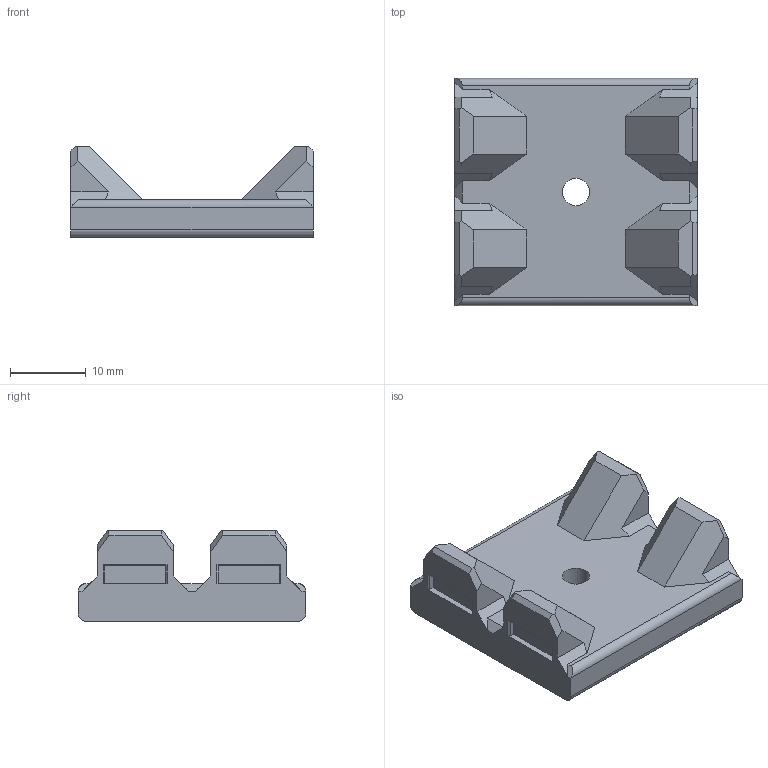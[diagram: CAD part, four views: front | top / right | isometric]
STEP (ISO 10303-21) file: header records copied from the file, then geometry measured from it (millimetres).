
FILE_DESCRIPTION(/* description */ (''),/* implementation_level */ '2;1');
FILE_NAME(/* name */ 'Strighte_Shorted (30mm).step',/* time_stamp */ '2024-10-20T23:15:33+02:00',/* author */ (''),/* organization */ (''),/* preprocessor_version */ 'ST-DEVELOPER v20',/* originating_system */ 'Autodesk Translation Framework v13.20.0.188',/* authorisation */ '');
FILE_SCHEMA (('AUTOMOTIVE_DESIGN { 1 0 10303 214 3 1 1 }'));
Length unit declared in the file: millimetre
Products named in the file (1): Stright_Cable_Guide
Bounding box: 32 x 30 x 12 mm (x, y, z)
Volume: 4824.8 mm3; surface area: 3289.1 mm2
Topology: 1 solids, 1 shells, 144 faces, 367 edges, 231 vertices
Faces by surface type: plane 100, cylinder 23, sphere 12, bspline 4, cone 3, torus 2
Full cylindrical faces by diameter (mm): 3.6 x1
Entity records: 4384 total; most frequent: CARTESIAN_POINT 855, ORIENTED_EDGE 734, DIRECTION 698, EDGE_CURVE 367, LINE 294, VECTOR 294, VERTEX_POINT 231, AXIS2_PLACEMENT_3D 202
